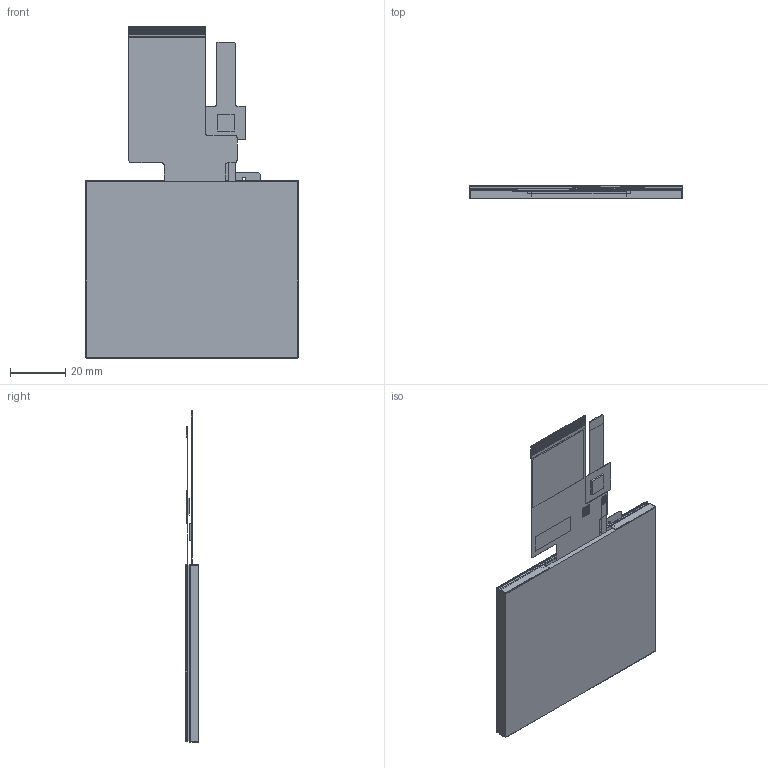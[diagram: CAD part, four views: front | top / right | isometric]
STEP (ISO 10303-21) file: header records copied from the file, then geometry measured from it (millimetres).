
FILE_DESCRIPTION (( 'STEP AP203' ), '1' );
FILE_NAME ('NHD-3.5-320240JF-ASXP-CTP.STEP', '2022-06-10T18:20:34', ( '' ), ( '' ), 'SwSTEP 2.0', 'SolidWorks 2019', '' );
FILE_SCHEMA (( 'CONFIG_CONTROL_DESIGN' ));
Length unit declared in the file: millimetre
Products named in the file (1): NHD-3.5-320240JF-ASXP-CTP
Bounding box: 76.9 x 4.9 x 119.8 mm (x, y, z)
Volume: 21504.6 mm3; surface area: 48003 mm2
Topology: 6 solids, 6 shells, 520 faces, 1312 edges, 868 vertices
Faces by surface type: plane 474, cylinder 38, cone 8
Entity records: 15403 total; most frequent: CARTESIAN_POINT 2701, ORIENTED_EDGE 2624, DIRECTION 2438, EDGE_CURVE 1312, VECTOR 1228, LINE 1228, VERTEX_POINT 868, AXIS2_PLACEMENT_3D 605
